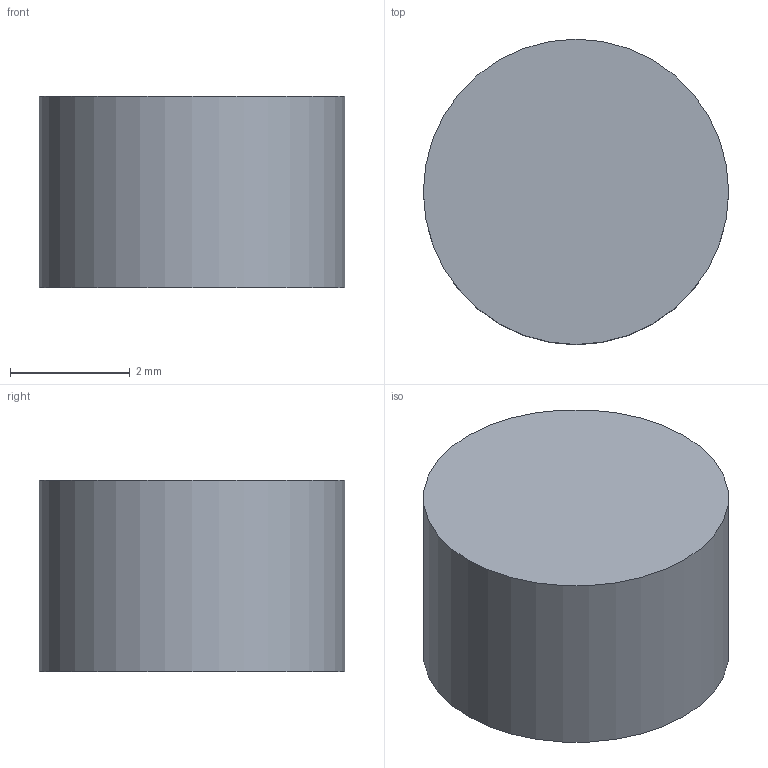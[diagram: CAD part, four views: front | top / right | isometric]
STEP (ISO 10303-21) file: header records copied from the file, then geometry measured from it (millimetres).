
FILE_DESCRIPTION(('Open CASCADE Model'),'2;1');
FILE_NAME('Open CASCADE Shape Model','2026-09-02T15:45:53',('Author'),( 'Open CASCADE'),'Open CASCADE STEP processor 7.7','Open CASCADE 7.7' ,'Unknown');
FILE_SCHEMA(('AUTOMOTIVE_DESIGN { 1 0 10303 214 1 1 1 1 }'));
Length unit declared in the file: millimetre
Products named in the file (1): Open CASCADE STEP translator 7.7 9
Bounding box: 5.1 x 5.1 x 3.2 mm (x, y, z)
Volume: 65.4 mm3; surface area: 92.1 mm2
Topology: 1 solids, 1 shells, 3 faces, 3 edges, 2 vertices
Faces by surface type: plane 2, cylinder 1
Full cylindrical faces by diameter (mm): 5.1 x1
Entity records: 108 total; most frequent: DIRECTION 19, CARTESIAN_POINT 15, AXIS2_PLACEMENT_3D 6, ORIENTED_EDGE 6, PCURVE 6, DEFINITIONAL_REPRESENTATION 6, LINE 5, VECTOR 5
